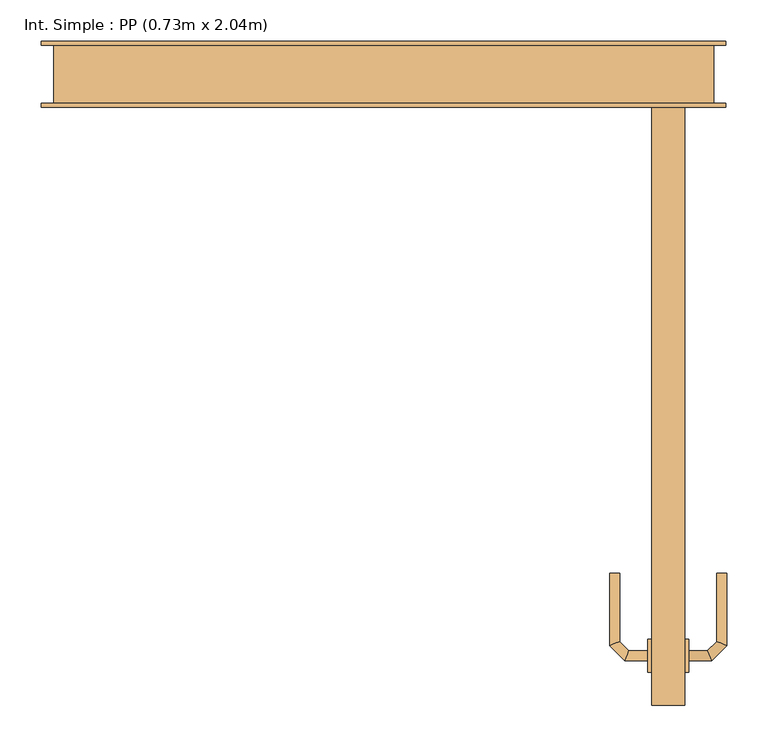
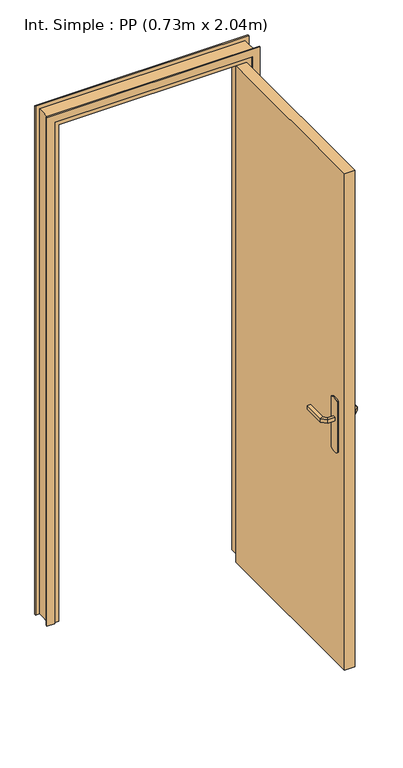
"""IFC4 building model written with IfcOpenShell, lengths in millimetres: door geometry, Int. Simple : PP (0.73m x 2.04m)."""

from ifc_helpers import new_model, si_unit, point, frame, frame_2d, origin, origin_with_axes, place, context, project, spatial, polyline, circle_curve, ellipse_curve, trimmed, segment, composite_curve, outline, extrude, faceted_brep, source, transform, mapped, element, save
from ifc_brep_helpers import plane_surface, cylinder_surface, advanced_brep


def int_simple_pp_0_73m_x_2_04m_4c4d3f64(model_context):
    return source(origin(), model_context, "Body", "SolidModel", [
        extrude(outline(composite_curve([segment(polyline([(-725.0, 870.0), (-725.0, 1080.0)]), True, "CONTINUOUS"), segment(trimmed(circle_curve(frame_2d((-705.0, 1045.3589838)), 40.0), [point((-725.0, 1080.0))], [point((-685.0, 1080.0))], False, "CARTESIAN"), True, "CONTINUOUS"), segment(polyline([(-685.0, 1080.0), (-685.0, 870.0)]), True, "CONTINUOUS"), segment(trimmed(circle_curve(frame_2d((-705.0, 904.6410162)), 40.0), [point((-685.0, 870.0))], [point((-725.0, 870.0))], False, "CARTESIAN"), True, "CONTINUOUS")], self_intersect=False)), frame((330.0, 0.0, 0.0), z_axis=(1.0, 0.0, 0.0), x_axis=(0.0, 1.0, 0.0)), (0.0, 0.0, 1.0), 5.0),
        extrude(outline(composite_curve([segment(polyline([(-685.0, 1080.0), (-685.0, 870.0)]), True, "CONTINUOUS"), segment(trimmed(circle_curve(frame_2d((-705.0, 904.6410162)), 40.0), [point((-685.0, 870.0))], [point((-725.0, 870.0))], False, "CARTESIAN"), True, "CONTINUOUS"), segment(polyline([(-725.0, 870.0), (-725.0, 1080.0)]), True, "CONTINUOUS"), segment(trimmed(circle_curve(frame_2d((-705.0, 1045.3589838)), 40.0), [point((-725.0, 1080.0))], [point((-685.0, 1080.0))], False, "CARTESIAN"), True, "CONTINUOUS")], self_intersect=False)), frame((285.0, 0.0, 0.0), z_axis=(1.0, 0.0, 0.0), x_axis=(0.0, 1.0, 0.0)), (0.0, 0.0, 1.0), 5.0),
        advanced_brep(
        [(335.0, -711.0, 1007.0), (335.0, -699.0, 1007.0), (335.0, -699.0, 993.0), (335.0, -711.0, 993.0), (362.6509507, -711.0, 1007.0), (357.680388, -699.0, 1007.0), (357.680388, -699.0, 993.0), (362.6509507, -711.0, 993.0), (381.0281607, -692.62279, 1007.0), (369.0281607, -687.6522273, 1007.0), (369.0281607, -687.6522273, 993.0), (381.0281607, -692.62279, 993.0), (381.0281607, -604.9813594, 1007.0), (381.0281607, -604.9813594, 993.0), (369.0281607, -604.9813594, 993.0), (369.0281607, -604.9813594, 1007.0)],
        [
            (0, 1, circle_curve(frame((335.0, -705.0, 986.9542278), z_axis=(-1.0, 0.0, 0.0), x_axis=(0.0, 1.0, 0.0)), 20.9244589)),
            (1, 2),
            (2, 3, circle_curve(frame((335.0, -705.0, 1013.0457722), z_axis=(-1.0, 0.0, 0.0), x_axis=(0.0, 1.0, 0.0)), 20.9244589)),
            (3, 0),
            (0, 4),
            (4, 5, ellipse_curve(frame((360.1656693, -705.0, 986.9542278), z_axis=(-0.9238795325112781, -0.3826834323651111, 0.0), x_axis=(-0.3826834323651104, 0.9238795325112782, 0.0)), 22.6484711, 20.9244589)),
            (5, 1),
            (5, 6),
            (6, 2),
            (6, 7, ellipse_curve(frame((360.1656693, -705.0, 1013.0457722), z_axis=(-0.9238795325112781, -0.3826834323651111, 0.0), x_axis=(-0.3826834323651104, 0.9238795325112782, 0.0)), 22.6484711, 20.9244589)),
            (7, 3),
            (7, 4),
            (4, 8),
            (8, 9, ellipse_curve(frame((375.0281607, -690.1375086, 986.9542278), z_axis=(-0.3826834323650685, -0.9238795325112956, 0.0), x_axis=(-0.9238795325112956, 0.38268343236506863, 0.0)), 22.6484711, 20.9244589)),
            (9, 5),
            (9, 10),
            (10, 6),
            (10, 11, ellipse_curve(frame((375.0281607, -690.1375086, 1013.0457722), z_axis=(-0.3826834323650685, -0.9238795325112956, 0.0), x_axis=(-0.9238795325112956, 0.38268343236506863, 0.0)), 22.6484711, 20.9244589)),
            (11, 7),
            (11, 8),
            (12, 13),
            (13, 14, circle_curve(frame((375.0281607, -604.9813594, 1013.0457722), z_axis=(0.0, 1.0, 0.0), x_axis=(-1.0, 0.0, 0.0)), 20.9244589)),
            (14, 15),
            (15, 12, circle_curve(frame((375.0281607, -604.9813594, 986.9542278), z_axis=(0.0, 1.0, 0.0), x_axis=(-1.0, 0.0, 0.0)), 20.9244589)),
            (8, 12),
            (15, 9),
            (14, 10),
            (13, 11),
        ],
        [
            plane_surface(frame((335.0, -714.2195445, 1000.0), z_axis=(-1.0, 0.0, 0.0), x_axis=(0.0, 0.0, -1.0))),
            cylinder_surface(frame((335.0, -705.0, 986.9542278), z_axis=(-1.0, 0.0, 0.0), x_axis=(0.0, 1.0, 0.0)), 20.9244589),
            plane_surface(frame((335.0, -699.0, 1007.0), z_axis=(0.0, 1.0, 0.0), x_axis=(1.0, 0.0, 0.0))),
            cylinder_surface(frame((335.0, -705.0, 1013.0457722), z_axis=(-1.0, 0.0, 0.0), x_axis=(0.0, 1.0, 0.0)), 20.9244589),
            plane_surface(frame((335.0, -711.0, 993.0), z_axis=(0.0, -1.0, 0.0), x_axis=(1.0, 0.0, 0.0))),
            cylinder_surface(frame((360.1656693, -705.0, 986.9542278), z_axis=(-0.7071067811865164, -0.7071067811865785, 0.0), x_axis=(-0.7071067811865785, 0.7071067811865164, 0.0)), 20.9244589),
            plane_surface(frame((357.680388, -699.0, 1007.0), z_axis=(-0.7071067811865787, 0.7071067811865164, 0.0), x_axis=(0.7071067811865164, 0.7071067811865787, 0.0))),
            cylinder_surface(frame((360.1656693, -705.0, 1013.0457722), z_axis=(-0.7071067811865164, -0.7071067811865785, 0.0), x_axis=(-0.7071067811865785, 0.7071067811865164, 0.0)), 20.9244589),
            plane_surface(frame((362.6509507, -711.0, 993.0), z_axis=(0.7071067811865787, -0.7071067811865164, 0.0), x_axis=(0.7071067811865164, 0.7071067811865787, 0.0))),
            plane_surface(frame((375.0281607, -604.9813594, 990.7804555), z_axis=(0.0, 1.0, 0.0), x_axis=(-1.0, 0.0, 0.0))),
            cylinder_surface(frame((375.0281607, -690.1375086, 986.9542278), z_axis=(0.0, -1.0, 0.0), x_axis=(-1.0, 0.0, 0.0)), 20.9244589),
            plane_surface(frame((369.0281607, -687.6522273, 1007.0), z_axis=(-1.0, 0.0, 0.0), x_axis=(0.0, 1.0, 0.0))),
            cylinder_surface(frame((375.0281607, -690.1375086, 1013.0457722), z_axis=(0.0, -1.0, 0.0), x_axis=(-1.0, 0.0, 0.0)), 20.9244589),
            plane_surface(frame((381.0281607, -692.62279, 993.0), z_axis=(1.0, 0.0, 0.0), x_axis=(0.0, 1.0, 0.0))),
        ],
        [
            (0, [[1, 2, 3, 4]]),
            (1, [[-1, 5, 6, 7]]),
            (2, [[-2, -7, 8, 9]]),
            (3, [[-3, -9, 10, 11]]),
            (4, [[-4, -11, 12, -5]]),
            (5, [[-6, 13, 14, 15]]),
            (6, [[-8, -15, 16, 17]]),
            (7, [[-10, -17, 18, 19]]),
            (8, [[-12, -19, 20, -13]]),
            (9, [[21, 22, 23, 24]]),
            (10, [[-14, 25, -24, 26]]),
            (11, [[-16, -26, -23, 27]]),
            (12, [[-18, -27, -22, 28]]),
            (13, [[-20, -28, -21, -25]]),
        ],
    ),
        advanced_brep(
        [(285.0, -699.0, 993.0), (285.0, -699.0, 1007.0), (285.0, -711.0, 1007.0), (285.0, -711.0, 993.0), (262.5147955, -699.0, 993.0), (262.5147955, -699.0, 1007.0), (257.5442327, -711.0, 1007.0), (257.5442327, -711.0, 993.0), (251.0295141, -687.5147186, 993.0), (251.0295141, -687.5147186, 1007.0), (239.0295141, -692.4852814, 1007.0), (239.0295141, -692.4852814, 993.0), (251.0295141, -604.9542163, 993.0), (239.0295141, -604.9542163, 993.0), (239.0295141, -604.9542163, 1007.0), (251.0295141, -604.9542163, 1007.0)],
        [
            (0, 1),
            (1, 2, circle_curve(frame((285.0, -705.0, 986.9542278), z_axis=(1.0, 0.0, 0.0), x_axis=(0.0, -1.0, 0.0)), 20.9244589)),
            (2, 3),
            (3, 0, circle_curve(frame((285.0, -705.0, 1013.0457722), z_axis=(1.0, 0.0, 0.0), x_axis=(0.0, -1.0, 0.0)), 20.9244589)),
            (0, 4),
            (4, 5),
            (5, 1),
            (5, 6, ellipse_curve(frame((260.0295141, -705.0, 986.9542278), z_axis=(0.9238795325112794, -0.38268343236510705, 0.0), x_axis=(0.3826834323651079, 0.9238795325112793, 0.0)), 22.6484711, 20.9244589)),
            (6, 2),
            (6, 7),
            (7, 3),
            (7, 4, ellipse_curve(frame((260.0295141, -705.0, 1013.0457722), z_axis=(0.9238795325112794, -0.38268343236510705, 0.0), x_axis=(0.3826834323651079, 0.9238795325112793, 0.0)), 22.6484711, 20.9244589)),
            (4, 8),
            (8, 9),
            (9, 5),
            (9, 10, ellipse_curve(frame((245.0295141, -690.0, 986.9542278), z_axis=(0.38268343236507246, -0.923879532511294, 0.0), x_axis=(0.9238795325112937, 0.3826834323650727, 0.0)), 22.6484711, 20.9244589)),
            (10, 6),
            (10, 11),
            (11, 7),
            (11, 8, ellipse_curve(frame((245.0295141, -690.0, 1013.0457722), z_axis=(0.38268343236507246, -0.923879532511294, 0.0), x_axis=(0.9238795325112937, 0.3826834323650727, 0.0)), 22.6484711, 20.9244589)),
            (12, 13, circle_curve(frame((245.0295141, -604.9542163, 1013.0457722), z_axis=(0.0, 1.0, 0.0), x_axis=(-1.0, 0.0, 0.0)), 20.9244589)),
            (13, 14),
            (14, 15, circle_curve(frame((245.0295141, -604.9542163, 986.9542278), z_axis=(0.0, 1.0, 0.0), x_axis=(-1.0, 0.0, 0.0)), 20.9244589)),
            (15, 12),
            (8, 12),
            (15, 9),
            (14, 10),
            (13, 11),
        ],
        [
            plane_surface(frame((285.0, -714.2195445, 1000.0), z_axis=(1.0, 0.0, 0.0), x_axis=(0.0, 0.0, 1.0))),
            plane_surface(frame((285.0, -699.0, 993.0), z_axis=(0.0, 1.0, 0.0), x_axis=(-1.0, 0.0, 0.0))),
            cylinder_surface(frame((285.0, -705.0, 986.9542278), z_axis=(1.0, 0.0, 0.0), x_axis=(0.0, -1.0, 0.0)), 20.9244589),
            plane_surface(frame((285.0, -711.0, 1007.0), z_axis=(0.0, -1.0, 0.0), x_axis=(-1.0, 0.0, 0.0))),
            cylinder_surface(frame((285.0, -705.0, 1013.0457722), z_axis=(1.0, 0.0, 0.0), x_axis=(0.0, -1.0, 0.0)), 20.9244589),
            plane_surface(frame((262.5147955, -699.0, 993.0), z_axis=(0.7071067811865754, 0.7071067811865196, 0.0), x_axis=(-0.7071067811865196, 0.7071067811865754, 0.0))),
            cylinder_surface(frame((260.0295141, -705.0, 986.9542278), z_axis=(0.7071067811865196, -0.7071067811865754, 0.0), x_axis=(-0.7071067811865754, -0.7071067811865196, 0.0)), 20.9244589),
            plane_surface(frame((257.5442327, -711.0, 1007.0), z_axis=(-0.7071067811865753, -0.7071067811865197, 0.0), x_axis=(-0.7071067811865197, 0.7071067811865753, 0.0))),
            cylinder_surface(frame((260.0295141, -705.0, 1013.0457722), z_axis=(0.7071067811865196, -0.7071067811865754, 0.0), x_axis=(-0.7071067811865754, -0.7071067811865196, 0.0)), 20.9244589),
            plane_surface(frame((245.0295141, -604.9542163, 990.7804555), z_axis=(0.0, 1.0, 0.0), x_axis=(-1.0, 0.0, 0.0))),
            plane_surface(frame((251.0295141, -687.5147186, 993.0), z_axis=(1.0, 0.0, 0.0), x_axis=(0.0, 1.0, 0.0))),
            cylinder_surface(frame((245.0295141, -690.0, 986.9542278), z_axis=(0.0, -1.0, 0.0), x_axis=(-1.0, 0.0, 0.0)), 20.9244589),
            plane_surface(frame((239.0295141, -692.4852814, 1007.0), z_axis=(-1.0, 0.0, 0.0), x_axis=(0.0, 1.0, 0.0))),
            cylinder_surface(frame((245.0295141, -690.0, 1013.0457722), z_axis=(0.0, -1.0, 0.0), x_axis=(-1.0, 0.0, 0.0)), 20.9244589),
        ],
        [
            (0, [[1, 2, 3, 4]]),
            (1, [[-1, 5, 6, 7]]),
            (2, [[-2, -7, 8, 9]]),
            (3, [[-3, -9, 10, 11]]),
            (4, [[-4, -11, 12, -5]]),
            (5, [[-6, 13, 14, 15]]),
            (6, [[-8, -15, 16, 17]]),
            (7, [[-10, -17, 18, 19]]),
            (8, [[-12, -19, 20, -13]]),
            (9, [[21, 22, 23, 24]]),
            (10, [[-14, 25, -24, 26]]),
            (11, [[-16, -26, -23, 27]]),
            (12, [[-18, -27, -22, 28]]),
            (13, [[-20, -28, -21, -25]]),
        ],
    ),
        extrude(outline(polyline([(290.0, -765.0), (290.0, -35.0), (330.0, -35.0), (330.0, -765.0), (290.0, -765.0)])), origin_with_axes(), (0.0, 0.0, 1.0), 2040.0),
        faceted_brep([(-435.0, -35.0, 0.0), (-435.0, 35.0, 0.0), (-385.0, 35.0, 0.0), (-385.0, 5.0, 0.0), (-400.0, 5.0, 0.0), (-400.0, -35.0, 0.0), (-435.0, -35.0, 2075.0), (-435.0, 35.0, 2075.0), (365.0, 35.0, 2075.0), (365.0, 35.0, 0.0), (315.0, 35.0, 0.0), (315.0, 35.0, 2025.0), (-385.0, 35.0, 2025.0), (-385.0, 5.0, 2025.0), (315.0, 5.0, 2025.0), (315.0, 5.0, 0.0), (330.0, 5.0, 0.0), (330.0, 5.0, 2040.0), (-400.0, 5.0, 2040.0), (-400.0, -35.0, 2040.0), (330.0, -35.0, 2040.0), (330.0, -35.0, 0.0), (365.0, -35.0, 0.0), (365.0, -35.0, 2075.0)], [[[0, 1, 2, 3, 4, 5]], [[1, 0, 6, 7]], [[2, 1, 7, 8, 9, 10, 11, 12]], [[3, 2, 12, 13]], [[4, 3, 13, 14, 15, 16, 17, 18]], [[5, 4, 18, 19]], [[0, 5, 19, 20, 21, 22, 23, 6]], [[8, 23, 22, 9]], [[22, 21, 16, 15, 10, 9]], [[14, 11, 10, 15]], [[20, 17, 16, 21]], [[7, 6, 23, 8]], [[13, 12, 11, 14]], [[19, 18, 17, 20]]]),
        extrude(outline(polyline([(0.0, -450.0), (0.0, -420.0), (2060.0, -420.0), (2060.0, 350.0), (0.0, 350.0), (0.0, 380.0), (2090.0, 380.0), (2090.0, -450.0), (0.0, -450.0)])), frame((0.0, -40.0, 0.0), z_axis=(0.0, 1.0, 0.0), x_axis=(0.0, 0.0, 1.0)), (0.0, 0.0, 1.0), 5.0),
        extrude(outline(polyline([(0.0, -450.0), (0.0, -420.0), (2060.0, -420.0), (2060.0, 350.0), (0.0, 350.0), (0.0, 380.0), (2090.0, 380.0), (2090.0, -450.0), (0.0, -450.0)])), frame((0.0, 35.0, 0.0), z_axis=(0.0, 1.0, 0.0), x_axis=(0.0, 0.0, 1.0)), (0.0, 0.0, 1.0), 5.0),
    ])


if __name__ == "__main__":
    model = new_model("IFC4")
    model_context = context("Model", 3, world=origin())
    ifc_project = project(units=[si_unit("LENGTHUNIT", "METRE", prefix="MILLI")], contexts=[model_context])
    site = spatial("IfcSite", under=ifc_project)
    building = spatial("IfcBuilding", under=site)
    placement = place(None, origin())
    int_simple_pp_0_73m_x_2_04m_shape = int_simple_pp_0_73m_x_2_04m_4c4d3f64(model_context)
    element("IfcDoor", 1, ObjectType="Int. Simple : PP (0.73m x 2.04m)", at=placement, inside=building, context=model_context, shape_type="MappedRepresentation", body=[
        mapped(int_simple_pp_0_73m_x_2_04m_shape, transform((0.0, 0.0, 0.0), x_axis=(1.0, 0.0, 0.0), y_axis=(0.0, 1.0, 0.0), z_axis=(0.0, 0.0, 1.0))),
    ])
    save(model, "model.ifc")
